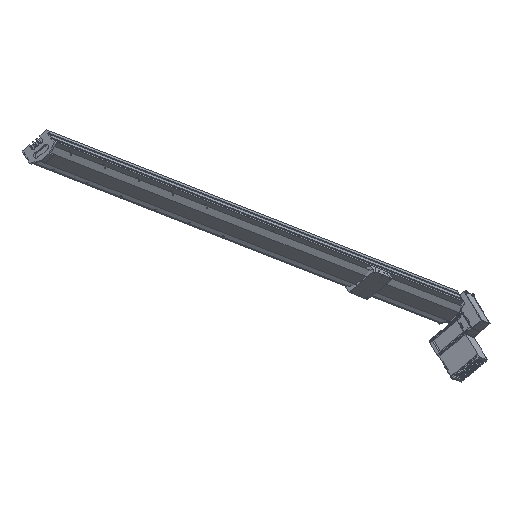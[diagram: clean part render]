
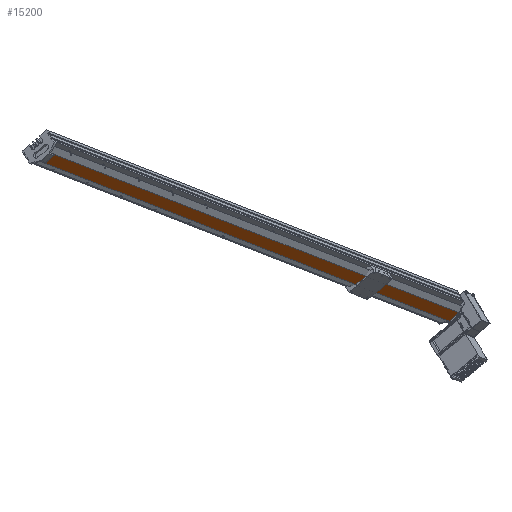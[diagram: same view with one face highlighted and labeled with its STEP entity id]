
A CAD part, top view. The second image highlights one B-rep face of the part: STEP entity #15200.
In plain terms, the highlighted planar face has unit normal (0.464, -0.763, 0.45) as drawn and (0, 1, 0) by its records, which use the part's own axes.
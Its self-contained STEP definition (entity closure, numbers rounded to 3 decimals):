
#202 = CARTESIAN_POINT ( 'NONE',  ( 20., 61.75, 2400. ) ) ;
#203 = LINE ( 'NONE', #202, #289 ) ;
#208 = CARTESIAN_POINT ( 'NONE',  ( -20., 61.75, 0. ) ) ;
#214 = CARTESIAN_POINT ( 'NONE',  ( 20., 61.75, 2400. ) ) ;
#288 = DIRECTION ( 'NONE',  ( -1., 0., 0. ) ) ;
#289 = VECTOR ( 'NONE', #288, 1000. ) ;
#293 = CARTESIAN_POINT ( 'NONE',  ( -20., 61.75, 2400. ) ) ;
#364 = AXIS2_PLACEMENT_3D ( 'NONE', #480, #366, #475 ) ;
#365 = VECTOR ( 'NONE', #452, 1000. ) ;
#366 = DIRECTION ( 'NONE',  ( 0., -1., 0. ) ) ;
#449 = LINE ( 'NONE', #453, #365 ) ;
#452 = DIRECTION ( 'NONE',  ( -1., 0., 0. ) ) ;
#453 = CARTESIAN_POINT ( 'NONE',  ( 20., 61.75, 0. ) ) ;
#459 = DIRECTION ( 'NONE',  ( 0., 0., -1. ) ) ;
#460 = VECTOR ( 'NONE', #459, 1000. ) ;
#461 = CARTESIAN_POINT ( 'NONE',  ( -20., 61.75, 2400. ) ) ;
#462 = LINE ( 'NONE', #461, #460 ) ;
#475 = DIRECTION ( 'NONE',  ( 0., 0., -1. ) ) ;
#480 = CARTESIAN_POINT ( 'NONE',  ( 20., 61.75, 2400. ) ) ;
#487 = FACE_OUTER_BOUND ( 'NONE', #15261, .T. ) ;
#488 = PLANE ( 'NONE',  #364 ) ;
#567 = VECTOR ( 'NONE', #573, 1000. ) ;
#573 = DIRECTION ( 'NONE',  ( 0., 0., -1. ) ) ;
#574 = CARTESIAN_POINT ( 'NONE',  ( 20., 61.75, 2400. ) ) ;
#575 = LINE ( 'NONE', #574, #567 ) ;
#4468 = VERTEX_POINT ( 'NONE', #26179 ) ;
#4559 = EDGE_CURVE ( 'NONE', #4468, #4563, #26328, .T. ) ;
#4563 = VERTEX_POINT ( 'NONE', #26360 ) ;
#15072 = VERTEX_POINT ( 'NONE', #214 ) ;
#15073 = ORIENTED_EDGE ( 'NONE', *, *, #15190, .T. ) ;
#15082 = VERTEX_POINT ( 'NONE', #208 ) ;
#15091 = ORIENTED_EDGE ( 'NONE', *, *, #15188, .F. ) ;
#15092 = EDGE_CURVE ( 'NONE', #15072, #15093, #203, .T. ) ;
#15093 = VERTEX_POINT ( 'NONE', #293 ) ;
#15187 = ORIENTED_EDGE ( 'NONE', *, *, #4559, .T. ) ;
#15188 = EDGE_CURVE ( 'NONE', #15093, #15082, #462, .T. ) ;
#15190 = EDGE_CURVE ( 'NONE', #4563, #15082, #449, .T. ) ;
#15200 = ADVANCED_FACE ( 'NONE', ( #487 ), #488, .F. ) ;
#15256 = ORIENTED_EDGE ( 'NONE', *, *, #15092, .F. ) ;
#15257 = EDGE_CURVE ( 'NONE', #15072, #4468, #575, .T. ) ;
#15258 = ORIENTED_EDGE ( 'NONE', *, *, #15257, .T. ) ;
#15261 = EDGE_LOOP ( 'NONE', ( #15073, #15091, #15256, #15258, #15187 ) ) ;
#26179 = CARTESIAN_POINT ( 'NONE',  ( 20., 61.75, 5.114 ) ) ;
#26309 = DIRECTION ( 'NONE',  ( 0., 0., -1. ) ) ;
#26310 = VECTOR ( 'NONE', #26309, 1000. ) ;
#26311 = CARTESIAN_POINT ( 'NONE',  ( 20., 61.75, 2400. ) ) ;
#26328 = LINE ( 'NONE', #26311, #26310 ) ;
#26360 = CARTESIAN_POINT ( 'NONE',  ( 20., 61.75, 0. ) ) ;
